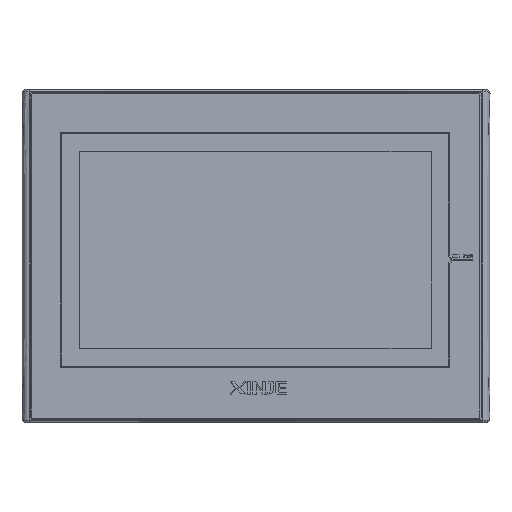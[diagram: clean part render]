
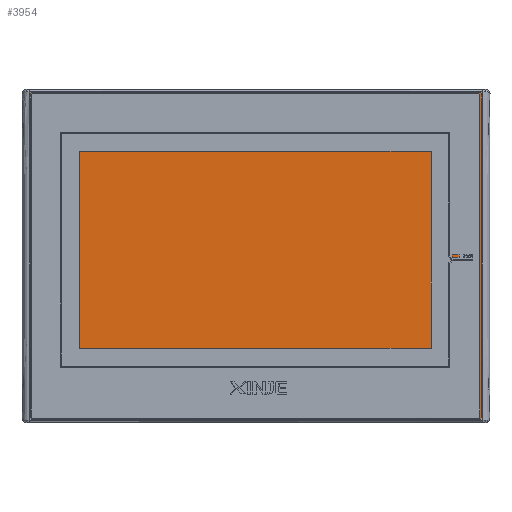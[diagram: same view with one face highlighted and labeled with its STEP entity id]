
A CAD part, top view. The second image highlights one B-rep face of the part: STEP entity #3954.
In plain terms, the highlighted planar face has unit normal (0, 0, 1).
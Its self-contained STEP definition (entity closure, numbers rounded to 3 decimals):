
#3954=ADVANCED_FACE('',(#8597),#73797,.T.);
#8597=FACE_OUTER_BOUND('',#13353,.T.);
#13353=EDGE_LOOP('',(#24608,#24609,#24610,#24611,#24612,#24613,#24614,#24615));
#24608=ORIENTED_EDGE('',*,*,#44423,.T.);
#24609=ORIENTED_EDGE('',*,*,#44433,.T.);
#24610=ORIENTED_EDGE('',*,*,#44424,.T.);
#24611=ORIENTED_EDGE('',*,*,#44437,.T.);
#24612=ORIENTED_EDGE('',*,*,#44425,.T.);
#24613=ORIENTED_EDGE('',*,*,#44441,.T.);
#24614=ORIENTED_EDGE('',*,*,#44426,.T.);
#24615=ORIENTED_EDGE('',*,*,#44429,.T.);
#44423=EDGE_CURVE('',#66863,#66864,#57044,.T.);
#44424=EDGE_CURVE('',#66865,#66866,#57045,.T.);
#44425=EDGE_CURVE('',#66867,#66868,#57046,.T.);
#44426=EDGE_CURVE('',#66869,#66870,#57047,.T.);
#44429=EDGE_CURVE('',#66870,#66863,#53194,.T.);
#44433=EDGE_CURVE('',#66864,#66865,#53196,.T.);
#44437=EDGE_CURVE('',#66866,#66867,#53198,.T.);
#44441=EDGE_CURVE('',#66868,#66869,#53200,.T.);
#53194=(
BOUNDED_CURVE()
B_SPLINE_CURVE(2,(#109404,#109405,#109406),.UNSPECIFIED.,.F.,.F.)
B_SPLINE_CURVE_WITH_KNOTS((3,3),(-1.496,0.),.UNSPECIFIED.)
CURVE()
GEOMETRIC_REPRESENTATION_ITEM()
RATIONAL_B_SPLINE_CURVE((1.,0.707,1.))
REPRESENTATION_ITEM('')
);
#53196=(
BOUNDED_CURVE()
B_SPLINE_CURVE(2,(#109414,#109415,#109416),.UNSPECIFIED.,.F.,.F.)
B_SPLINE_CURVE_WITH_KNOTS((3,3),(-1.496,0.),.UNSPECIFIED.)
CURVE()
GEOMETRIC_REPRESENTATION_ITEM()
RATIONAL_B_SPLINE_CURVE((1.,0.707,1.))
REPRESENTATION_ITEM('')
);
#53198=(
BOUNDED_CURVE()
B_SPLINE_CURVE(2,(#109424,#109425,#109426),.UNSPECIFIED.,.F.,.F.)
B_SPLINE_CURVE_WITH_KNOTS((3,3),(-1.496,0.),.UNSPECIFIED.)
CURVE()
GEOMETRIC_REPRESENTATION_ITEM()
RATIONAL_B_SPLINE_CURVE((1.,0.707,1.))
REPRESENTATION_ITEM('')
);
#53200=(
BOUNDED_CURVE()
B_SPLINE_CURVE(2,(#109434,#109435,#109436),.UNSPECIFIED.,.F.,.F.)
B_SPLINE_CURVE_WITH_KNOTS((3,3),(-1.496,0.),.UNSPECIFIED.)
CURVE()
GEOMETRIC_REPRESENTATION_ITEM()
RATIONAL_B_SPLINE_CURVE((1.,0.707,1.))
REPRESENTATION_ITEM('')
);
#57044=B_SPLINE_CURVE_WITH_KNOTS('',1,(#109392,#109393),.UNSPECIFIED.,.F.,
 .F.,(2,2),(0.,196.941),.UNSPECIFIED.);
#57045=B_SPLINE_CURVE_WITH_KNOTS('',1,(#109394,#109395),.UNSPECIFIED.,.F.,
 .F.,(2,2),(0.,142.608),.UNSPECIFIED.);
#57046=B_SPLINE_CURVE_WITH_KNOTS('',1,(#109396,#109397),.UNSPECIFIED.,.F.,
 .F.,(2,2),(0.,196.941),.UNSPECIFIED.);
#57047=B_SPLINE_CURVE_WITH_KNOTS('',1,(#109398,#109399),.UNSPECIFIED.,.F.,
 .F.,(2,2),(0.,142.608),.UNSPECIFIED.);
#66863=VERTEX_POINT('',#108517);
#66864=VERTEX_POINT('',#108518);
#66865=VERTEX_POINT('',#108519);
#66866=VERTEX_POINT('',#108520);
#66867=VERTEX_POINT('',#108521);
#66868=VERTEX_POINT('',#108522);
#66869=VERTEX_POINT('',#108523);
#66870=VERTEX_POINT('',#108524);
#73797=PLANE('',#77706);
#77706=AXIS2_PLACEMENT_3D('',#106320,#81355,$);
#81355=DIRECTION('',(0.,0.,1.));
#106320=CARTESIAN_POINT('',(-119.672,-87.072,4.582));
#108517=CARTESIAN_POINT('',(-98.47,-72.052,4.582));
#108518=CARTESIAN_POINT('',(98.47,-72.052,4.582));
#108519=CARTESIAN_POINT('',(99.218,-71.304,4.582));
#108520=CARTESIAN_POINT('',(99.218,71.304,4.582));
#108521=CARTESIAN_POINT('',(98.47,72.052,4.582));
#108522=CARTESIAN_POINT('',(-98.47,72.052,4.582));
#108523=CARTESIAN_POINT('',(-99.218,71.304,4.582));
#108524=CARTESIAN_POINT('',(-99.218,-71.304,4.582));
#109392=CARTESIAN_POINT('',(-98.47,-72.052,4.582));
#109393=CARTESIAN_POINT('',(98.47,-72.052,4.582));
#109394=CARTESIAN_POINT('',(99.218,-71.304,4.582));
#109395=CARTESIAN_POINT('',(99.218,71.304,4.582));
#109396=CARTESIAN_POINT('',(98.47,72.052,4.582));
#109397=CARTESIAN_POINT('',(-98.47,72.052,4.582));
#109398=CARTESIAN_POINT('',(-99.218,71.304,4.582));
#109399=CARTESIAN_POINT('',(-99.218,-71.304,4.582));
#109404=CARTESIAN_POINT('',(-99.218,-71.304,4.582));
#109405=CARTESIAN_POINT('',(-99.218,-72.052,4.582));
#109406=CARTESIAN_POINT('',(-98.47,-72.052,4.582));
#109414=CARTESIAN_POINT('',(98.47,-72.052,4.582));
#109415=CARTESIAN_POINT('',(99.218,-72.052,4.582));
#109416=CARTESIAN_POINT('',(99.218,-71.304,4.582));
#109424=CARTESIAN_POINT('',(99.218,71.304,4.582));
#109425=CARTESIAN_POINT('',(99.218,72.052,4.582));
#109426=CARTESIAN_POINT('',(98.47,72.052,4.582));
#109434=CARTESIAN_POINT('',(-98.47,72.052,4.582));
#109435=CARTESIAN_POINT('',(-99.218,72.052,4.582));
#109436=CARTESIAN_POINT('',(-99.218,71.304,4.582));
